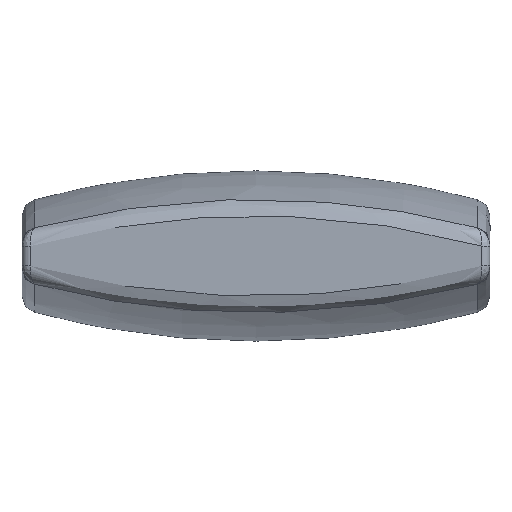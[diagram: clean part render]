
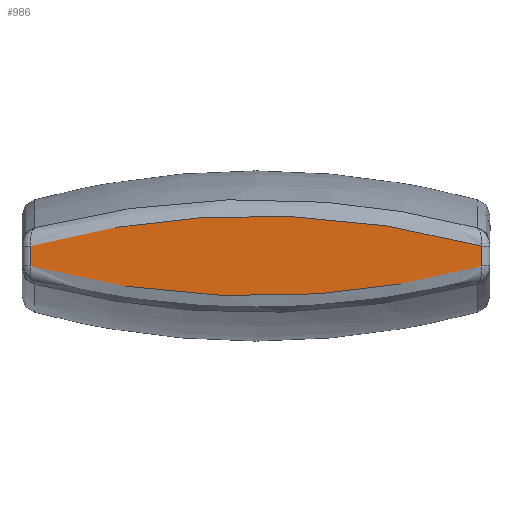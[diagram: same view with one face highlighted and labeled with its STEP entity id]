
A CAD part, front view. The second image highlights one B-rep face of the part: STEP entity #986.
In plain terms, the highlighted planar face has unit normal (0, -1, 0).
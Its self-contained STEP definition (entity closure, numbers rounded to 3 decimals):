
#76 = DIRECTION ( 'NONE',  ( 0., 0., -1. ) ) ;
#99 = CARTESIAN_POINT ( 'NONE',  ( 243.346, -275., 17.422 ) ) ;
#158 = CARTESIAN_POINT ( 'NONE',  ( 254.195, -275., 14.658 ) ) ;
#162 = VECTOR ( 'NONE', #1473, 1000. ) ;
#174 = CARTESIAN_POINT ( 'NONE',  ( -243.39, -275., 17.603 ) ) ;
#179 = DIRECTION ( 'NONE',  ( 0., -1., 0. ) ) ;
#192 = CARTESIAN_POINT ( 'NONE',  ( -221.629, -275., 22.762 ) ) ;
#240 = CARTESIAN_POINT ( 'NONE',  ( -144.628, -275., -36.764 ) ) ;
#274 = CARTESIAN_POINT ( 'NONE',  ( -265., -275., -11.713 ) ) ;
#306 = VECTOR ( 'NONE', #1488, 1000. ) ;
#381 = AXIS2_PLACEMENT_3D ( 'NONE', #423, #179, #1248 ) ;
#400 = CARTESIAN_POINT ( 'NONE',  ( 22.619, -275., 47.175 ) ) ;
#406 = EDGE_CURVE ( 'NONE', #969, #2976, #1811, .T. ) ;
#420 = CARTESIAN_POINT ( 'NONE',  ( 227.005, -275., 21.296 ) ) ;
#423 = CARTESIAN_POINT ( 'NONE',  ( 0., -275., -964.583 ) ) ;
#451 = ORIENTED_EDGE ( 'NONE', *, *, #3150, .T. ) ;
#464 = CARTESIAN_POINT ( 'NONE',  ( 265., -275., 11.713 ) ) ;
#465 = VERTEX_POINT ( 'NONE', #274 ) ;
#468 = DIRECTION ( 'NONE',  ( 0., 0., 1. ) ) ;
#493 = LINE ( 'NONE', #2531, #306 ) ;
#662 = CARTESIAN_POINT ( 'NONE',  ( -144.628, -275., 36.764 ) ) ;
#671 = VERTEX_POINT ( 'NONE', #2103 ) ;
#717 = CARTESIAN_POINT ( 'NONE',  ( -139.083, -275., -37.552 ) ) ;
#748 = CARTESIAN_POINT ( 'NONE',  ( -177.769, -275., -31.44 ) ) ;
#786 = ORIENTED_EDGE ( 'NONE', *, *, #2286, .T. ) ;
#814 = VERTEX_POINT ( 'NONE', #2435 ) ;
#831 = VECTOR ( 'NONE', #76, 1000. ) ;
#836 = CARTESIAN_POINT ( 'NONE',  ( -265., -275., -964.583 ) ) ;
#851 = CARTESIAN_POINT ( 'NONE',  ( 265., -275., 11.713 ) ) ;
#877 = CARTESIAN_POINT ( 'NONE',  ( -265., -275., 11.713 ) ) ;
#915 = CARTESIAN_POINT ( 'NONE',  ( -161.222, -275., 34.216 ) ) ;
#930 = CARTESIAN_POINT ( 'NONE',  ( -265., -275., 11.713 ) ) ;
#938 = CARTESIAN_POINT ( 'NONE',  ( 177.732, -275., -31.636 ) ) ;
#952 = CARTESIAN_POINT ( 'NONE',  ( -89.108, -275., -43.481 ) ) ;
#969 = VERTEX_POINT ( 'NONE', #2520 ) ;
#986 = ADVANCED_FACE ( 'NONE', ( #2236 ), #2985, .T. ) ;
#1059 = VECTOR ( 'NONE', #1567, 1000. ) ;
#1123 = EDGE_CURVE ( 'NONE', #465, #671, #2051, .T. ) ;
#1149 = CARTESIAN_POINT ( 'NONE',  ( 265., -275., 11.713 ) ) ;
#1152 = CARTESIAN_POINT ( 'NONE',  ( 111.571, -275., 41.233 ) ) ;
#1190 = CARTESIAN_POINT ( 'NONE',  ( -221.629, -275., -22.762 ) ) ;
#1207 = CARTESIAN_POINT ( 'NONE',  ( -161.222, -275., -34.216 ) ) ;
#1213 = CARTESIAN_POINT ( 'NONE',  ( -177.769, -275., 31.44 ) ) ;
#1231 = LINE ( 'NONE', #2010, #2607 ) ;
#1248 = DIRECTION ( 'NONE',  ( 1., 0., 0. ) ) ;
#1299 = LINE ( 'NONE', #2134, #831 ) ;
#1423 = CARTESIAN_POINT ( 'NONE',  ( -44.523, -275., 46.444 ) ) ;
#1438 = CARTESIAN_POINT ( 'NONE',  ( 210.609, -275., 24.943 ) ) ;
#1444 = CARTESIAN_POINT ( 'NONE',  ( 22.619, -275., -47.175 ) ) ;
#1464 = CARTESIAN_POINT ( 'NONE',  ( -243.39, -275., -17.603 ) ) ;
#1473 = DIRECTION ( 'NONE',  ( 0., 0., 1. ) ) ;
#1479 = CARTESIAN_POINT ( 'NONE',  ( 221.548, -275., -22.542 ) ) ;
#1488 = DIRECTION ( 'NONE',  ( 0., 0., 1. ) ) ;
#1528 = VECTOR ( 'NONE', #2953, 1000. ) ;
#1567 = DIRECTION ( 'NONE',  ( 0., 0., -1. ) ) ;
#1606 = EDGE_CURVE ( 'NONE', #2925, #969, #2283, .T. ) ;
#1708 = CARTESIAN_POINT ( 'NONE',  ( -22.176, -275., 47.185 ) ) ;
#1721 = CARTESIAN_POINT ( 'NONE',  ( -89.108, -275., 43.481 ) ) ;
#1722 = ORIENTED_EDGE ( 'NONE', *, *, #1937, .T. ) ;
#1746 = CARTESIAN_POINT ( 'NONE',  ( 205.133, -275., -26.098 ) ) ;
#1776 = CARTESIAN_POINT ( 'NONE',  ( -44.523, -275., -46.444 ) ) ;
#1811 = LINE ( 'NONE', #836, #1059 ) ;
#1918 = VERTEX_POINT ( 'NONE', #851 ) ;
#1926 = CARTESIAN_POINT ( 'NONE',  ( 221.548, -275., 22.542 ) ) ;
#1937 = EDGE_CURVE ( 'NONE', #2976, #2476, #3167, .T. ) ;
#1978 = CARTESIAN_POINT ( 'NONE',  ( -188.762, -275., 29.407 ) ) ;
#2010 = CARTESIAN_POINT ( 'NONE',  ( 265., -275., -964.583 ) ) ;
#2051 = B_SPLINE_CURVE_WITH_KNOTS ( 'NONE', 3,
 ( #3050, #1464, #1190, #2491, #748, #1207, #2239, #240, #717, #3247, #952, #1776, #2797, #1444, #2473, #3004, #2267, #2750, #938, #1746, #2223, #1479, #3278, #2252, #3232, #2506 ),
 .UNSPECIFIED., .F., .F.,
 ( 4, 2, 2, 2, 2, 2, 2, 2, 2, 2, 2, 2, 4 ),
 ( 0., 0.067, 0.101, 0.117, 0.134, 0.201, 0.268, 0.335, 0.402, 0.469, 0.486, 0.503, 0.537 ),
 .UNSPECIFIED. ) ;
#2058 = ORIENTED_EDGE ( 'NONE', *, *, #1606, .T. ) ;
#2103 = CARTESIAN_POINT ( 'NONE',  ( 265., -275., -11.713 ) ) ;
#2106 = ORIENTED_EDGE ( 'NONE', *, *, #1123, .T. ) ;
#2134 = CARTESIAN_POINT ( 'NONE',  ( -265., -275., -964.583 ) ) ;
#2223 = CARTESIAN_POINT ( 'NONE',  ( 210.609, -275., -24.943 ) ) ;
#2236 = FACE_OUTER_BOUND ( 'NONE', #2806, .T. ) ;
#2239 = CARTESIAN_POINT ( 'NONE',  ( -155.697, -275., -35.096 ) ) ;
#2245 = CARTESIAN_POINT ( 'NONE',  ( 177.732, -275., 31.636 ) ) ;
#2252 = CARTESIAN_POINT ( 'NONE',  ( 243.346, -275., -17.422 ) ) ;
#2267 = CARTESIAN_POINT ( 'NONE',  ( 111.571, -275., -41.233 ) ) ;
#2283 = B_SPLINE_CURVE_WITH_KNOTS ( 'NONE', 3,
 ( #464, #158, #99, #420, #1926, #1438, #2964, #2245, #3224, #1152, #2756, #2979, #400, #1708, #1423, #1721, #2497, #2483, #662, #3209, #915, #1213, #1978, #192, #174, #930 ),
 .UNSPECIFIED., .F., .F.,
 ( 4, 2, 2, 2, 2, 2, 2, 2, 2, 2, 2, 2, 4 ),
 ( 0., 0.034, 0.05, 0.067, 0.134, 0.202, 0.269, 0.336, 0.403, 0.42, 0.437, 0.47, 0.537 ),
 .UNSPECIFIED. ) ;
#2286 = EDGE_CURVE ( 'NONE', #814, #1918, #1231, .T. ) ;
#2358 = ORIENTED_EDGE ( 'NONE', *, *, #2802, .T. ) ;
#2430 = CARTESIAN_POINT ( 'NONE',  ( -265., -275., -11.713 ) ) ;
#2435 = CARTESIAN_POINT ( 'NONE',  ( 265., -275., -11.713 ) ) ;
#2473 = CARTESIAN_POINT ( 'NONE',  ( 44.936, -275., -46.424 ) ) ;
#2476 = VERTEX_POINT ( 'NONE', #2430 ) ;
#2483 = CARTESIAN_POINT ( 'NONE',  ( -139.083, -275., 37.552 ) ) ;
#2491 = CARTESIAN_POINT ( 'NONE',  ( -188.762, -275., -29.407 ) ) ;
#2497 = CARTESIAN_POINT ( 'NONE',  ( -111.349, -275., 41.26 ) ) ;
#2506 = CARTESIAN_POINT ( 'NONE',  ( 265., -275., -11.713 ) ) ;
#2520 = CARTESIAN_POINT ( 'NONE',  ( -265., -275., 11.713 ) ) ;
#2531 = CARTESIAN_POINT ( 'NONE',  ( 265., -275., -964.583 ) ) ;
#2607 = VECTOR ( 'NONE', #468, 1000. ) ;
#2744 = CARTESIAN_POINT ( 'NONE',  ( 265., -275., -964.583 ) ) ;
#2750 = CARTESIAN_POINT ( 'NONE',  ( 155.731, -275., -35.324 ) ) ;
#2756 = CARTESIAN_POINT ( 'NONE',  ( 89.412, -275., 43.453 ) ) ;
#2797 = CARTESIAN_POINT ( 'NONE',  ( -22.176, -275., -47.185 ) ) ;
#2802 = EDGE_CURVE ( 'NONE', #2476, #465, #1299, .T. ) ;
#2806 = EDGE_LOOP ( 'NONE', ( #2358, #2106, #3184, #786, #451, #2058, #3271, #1722 ) ) ;
#2921 = CARTESIAN_POINT ( 'NONE',  ( -265., -275., -964.583 ) ) ;
#2925 = VERTEX_POINT ( 'NONE', #1149 ) ;
#2953 = DIRECTION ( 'NONE',  ( 0., 0., -1. ) ) ;
#2964 = CARTESIAN_POINT ( 'NONE',  ( 205.133, -275., 26.098 ) ) ;
#2976 = VERTEX_POINT ( 'NONE', #877 ) ;
#2979 = CARTESIAN_POINT ( 'NONE',  ( 44.936, -275., 46.424 ) ) ;
#2985 = PLANE ( 'NONE',  #381 ) ;
#3004 = CARTESIAN_POINT ( 'NONE',  ( 89.412, -275., -43.453 ) ) ;
#3044 = LINE ( 'NONE', #2744, #162 ) ;
#3050 = CARTESIAN_POINT ( 'NONE',  ( -265., -275., -11.713 ) ) ;
#3150 = EDGE_CURVE ( 'NONE', #1918, #2925, #493, .T. ) ;
#3167 = LINE ( 'NONE', #2921, #1528 ) ;
#3184 = ORIENTED_EDGE ( 'NONE', *, *, #3249, .T. ) ;
#3209 = CARTESIAN_POINT ( 'NONE',  ( -155.697, -275., 35.096 ) ) ;
#3224 = CARTESIAN_POINT ( 'NONE',  ( 155.731, -275., 35.324 ) ) ;
#3232 = CARTESIAN_POINT ( 'NONE',  ( 254.195, -275., -14.658 ) ) ;
#3247 = CARTESIAN_POINT ( 'NONE',  ( -111.349, -275., -41.26 ) ) ;
#3249 = EDGE_CURVE ( 'NONE', #671, #814, #3044, .T. ) ;
#3271 = ORIENTED_EDGE ( 'NONE', *, *, #406, .T. ) ;
#3278 = CARTESIAN_POINT ( 'NONE',  ( 227.005, -275., -21.296 ) ) ;
